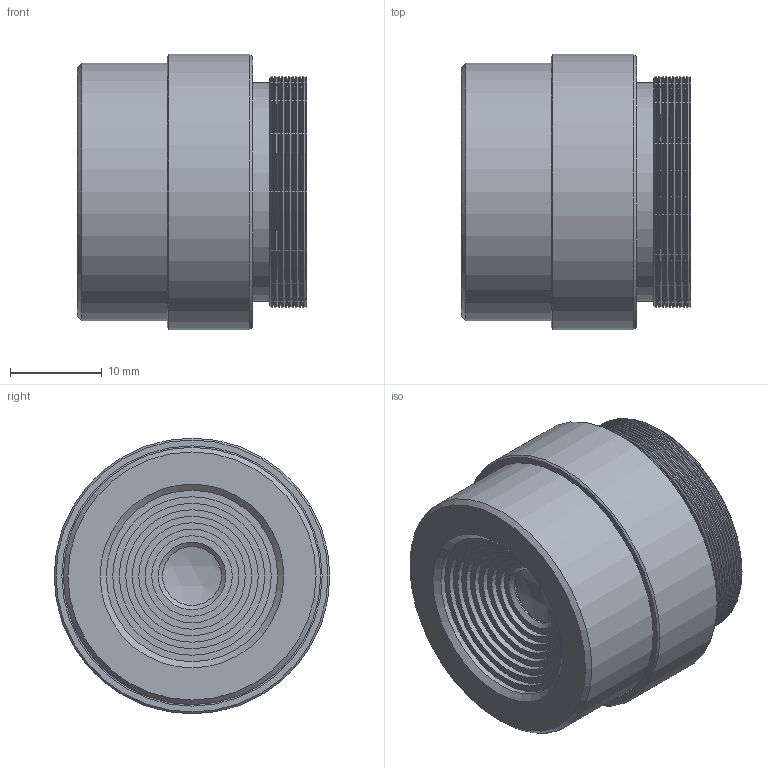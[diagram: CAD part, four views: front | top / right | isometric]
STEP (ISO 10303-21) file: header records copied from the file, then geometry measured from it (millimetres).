
FILE_DESCRIPTION(/* description */ ('TCSL 0818 5MP'),/* implementation_level */ '2;1');
FILE_NAME(/* name */ 'D:\1_Konstruktion\1_KUNDEN\TIS\199-15_Objektive_Step-Dateien für Endkundem\CS-Objektive (3x)\Lens_TCSL 0818 5MP.stp',/* time_stamp */ '2016-01-28T20:05:04+01:00',/* author */ ('khw'),/* organization */ (''),/* preprocessor_version */ 'ST-DEVELOPER v15.2',/* originating_system */ 'Autodesk Inventor 2014',/* authorisation */ '6767,5 mm^3');
FILE_SCHEMA (('AUTOMOTIVE_DESIGN { 1 0 10303 214 3 1 1 }'));
Length unit declared in the file: millimetre
Products named in the file (1): Lens_TCSL 0818 5MP
Bounding box: 24.97 x 30 x 30 mm (x, y, z)
Volume: 12675.2 mm3; surface area: 6132.6 mm2
Topology: 2 solids, 2 shells, 76 faces, 154 edges, 99 vertices
Faces by surface type: cone 28, cylinder 27, plane 19, sphere 2
Full cylindrical faces by diameter (mm): 6.4 x1, 6.668 x1, 8.756 x1, 10.169 x1, 11.583 x1, 12.996 x1, 14 x1, 14.409 x1, 15.823 x1, 17.236 x1, 18 x1, 18.65 x1, 23.8 x1, 25.245 x11, 28 x1, 28.322 x1, 30 x1
Entity records: 1610 total; most frequent: DIRECTION 302, CARTESIAN_POINT 225, AXIS2_PLACEMENT_3D 151, EDGE_LOOP 148, ORIENTED_EDGE 148, STYLED_ITEM 78, FACE_OUTER_BOUND 76, ADVANCED_FACE 76
